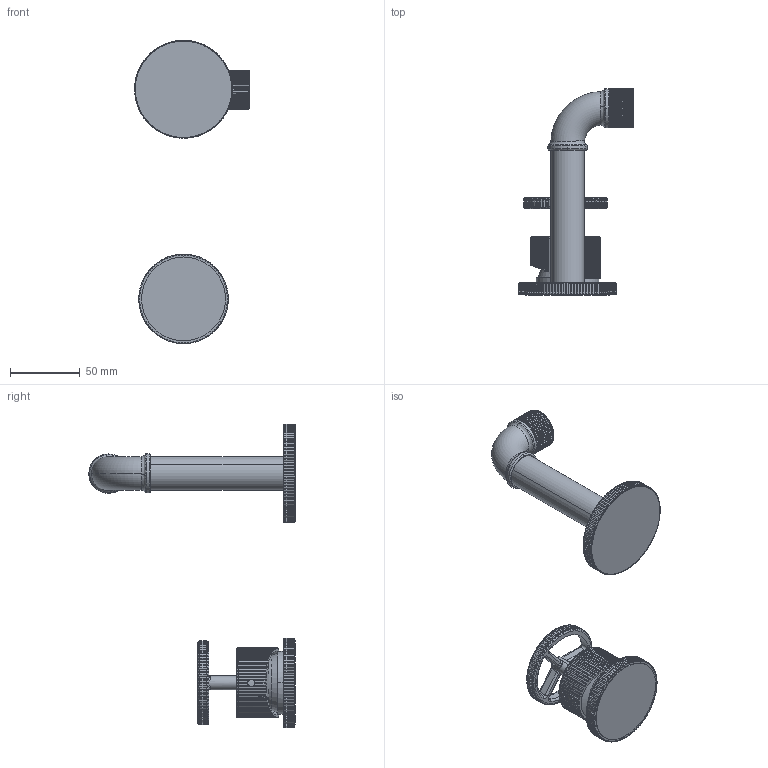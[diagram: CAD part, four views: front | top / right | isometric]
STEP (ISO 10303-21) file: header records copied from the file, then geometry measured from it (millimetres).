
FILE_DESCRIPTION (( 'STEP AP203' ), '1' );
FILE_NAME ('78320810 x architetti.STEP', '2023-09-27T11:54:33', ( '' ), ( '' ), 'SwSTEP 2.0', 'SolidWorks 2020', '' );
FILE_SCHEMA (( 'CONFIG_CONTROL_DESIGN' ));
Length unit declared in the file: millimetre
Products named in the file (1): 78320810 x architetti
Bounding box: 82.08 x 147.5 x 217 mm (x, y, z)
Volume: 204950 mm3; surface area: 48968.3 mm2
Topology: 2 solids, 11 shells, 1892 faces, 5130 edges, 3261 vertices
Faces by surface type: cylinder 1227, torus 353, bspline 251, cone 30, plane 29, sphere 2
Entity records: 93344 total; most frequent: CARTESIAN_POINT 48371, ORIENTED_EDGE 10252, DIRECTION 8861, EDGE_CURVE 5126, AXIS2_PLACEMENT_3D 3800, VERTEX_POINT 3261, CIRCLE 2158, EDGE_LOOP 1909
